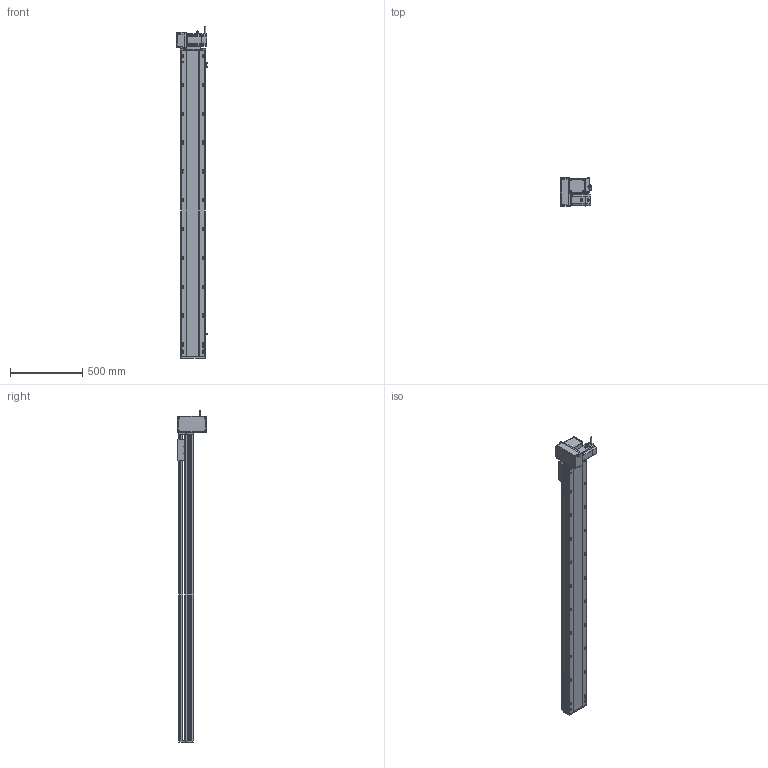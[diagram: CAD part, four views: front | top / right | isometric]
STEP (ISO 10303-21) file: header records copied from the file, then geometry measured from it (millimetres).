
FILE_DESCRIPTION (( 'STEP AP214' ), '1' );
FILE_NAME ('RTB17S-XX-1850-LM-M75-C4.STEP', '2025-12-12T00:43:18', ( '' ), ( '' ), 'SwSTEP 2.0', 'SolidWorks 2018', '' );
FILE_SCHEMA (( 'AUTOMOTIVE_DESIGN' ));
Length unit declared in the file: millimetre
Products named in the file (15): 750W萇儂^RTB17S-XX-XX-LM-M75-C4; RTB17S-L-007奻裔^RTB17S-XX-XX-LM-M75-C4; RTB17S-L-004-賑釱^RTB17S-賑釱_RTB17S-XX-XX-LM-M75-C4; RTB17S-XX-1850-LM-M75-C4; RTB17S-L-001-耜醱啣^RTB17S-XX-XX-LM-M75-C4; EE672^RTB17S-XX-XX-LM-M75-C4; RTB22S-GY-018P^RTB17S-LM-々湍釱蚾饜-750W_RTB17S-XX-XX-LM-M75-C4; RTB17-R-011菁釱^RTB17S-XX-XX-LM-M75-C4; RTB17S-LM-々湍釱蚾饜-750W^RTB17S-XX-XX-LM-M75-C4; RTB22S-GY-005P^RTB17S-LM-々湍釱蚾饜-750W_RTB17S-XX-XX-LM-M75-C4; RTB22S-GY-008-M75--萇儂啣^RTB17S-LM-々湍釱蚾饜-750W_RTB17S-XX-XX-LM-M75-C4; RTB22S-GY-017P^RTB17S-LM-々湍釱蚾饜-750W_RTB17S-XX-XX-LM-M75-C4; RTH13-BL-012覜茼え俋离^RTB17S-賑釱_RTB17S-XX-XX-LM-M75-C4; RTB17S-賑釱^RTB17S-XX-XX-LM-M75-C4; RTB17S-L-014-T20-P75--々湍釱^RTB17S-LM-々湍釱蚾饜-750W_RTB17S-XX-XX-LM-M75-C4
Assembly tree (17 placements, depth 3):
  RTB17S-XX-1850-LM-M75-C4
    RTB17-R-011菁釱^RTB17S-XX-XX-LM-M75-C4
    EE672^RTB17S-XX-XX-LM-M75-C4  x3
    RTB17S-L-001-耜醱啣^RTB17S-XX-XX-LM-M75-C4
    RTB17S-賑釱^RTB17S-XX-XX-LM-M75-C4
      RTB17S-L-004-賑釱^RTB17S-賑釱_RTB17S-XX-XX-LM-M75-C4
      RTH13-BL-012覜茼え俋离^RTB17S-賑釱_RTB17S-XX-XX-LM-M75-C4
    RTB17S-L-007奻裔^RTB17S-XX-XX-LM-M75-C4
    750W萇儂^RTB17S-XX-XX-LM-M75-C4
    RTB17S-LM-々湍釱蚾饜-750W^RTB17S-XX-XX-LM-M75-C4
      RTB17S-L-014-T20-P75--々湍釱^RTB17S-LM-々湍釱蚾饜-750W_RTB17S-XX-XX-LM-M75-C4
      RTB22S-GY-005P^RTB17S-LM-々湍釱蚾饜-750W_RTB17S-XX-XX-LM-M75-C4
      RTB22S-GY-017P^RTB17S-LM-々湍釱蚾饜-750W_RTB17S-XX-XX-LM-M75-C4  x2
      RTB22S-GY-008-M75--萇儂啣^RTB17S-LM-々湍釱蚾饜-750W_RTB17S-XX-XX-LM-M75-C4
      RTB22S-GY-018P^RTB17S-LM-々湍釱蚾饜-750W_RTB17S-XX-XX-LM-M75-C4
Bounding box: 210.4 x 200 x 2302.2 mm (x, y, z)
Volume: 17509381.9 mm3; surface area: 3116797.5 mm2
Topology: 17 solids, 17 shells, 2169 faces, 6052 edges, 3914 vertices
Faces by surface type: plane 980, cylinder 773, bspline 294, cone 110, sphere 8, torus 4
Entity records: 61942 total; most frequent: CARTESIAN_POINT 18316, ORIENTED_EDGE 8948, DIRECTION 8312, EDGE_CURVE 4474, AXIS2_PLACEMENT_3D 2934, VERTEX_POINT 2918, VECTOR 2444, LINE 2444
